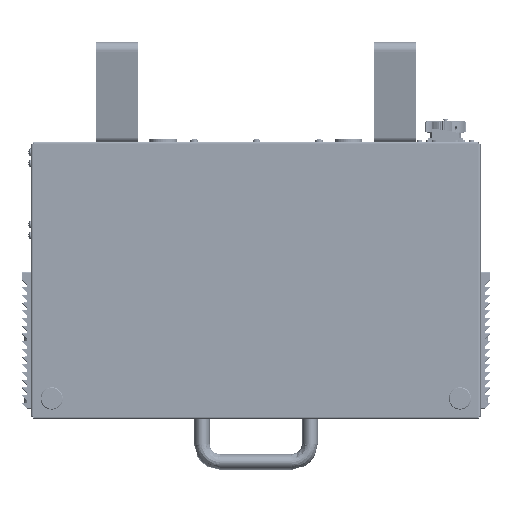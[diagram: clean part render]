
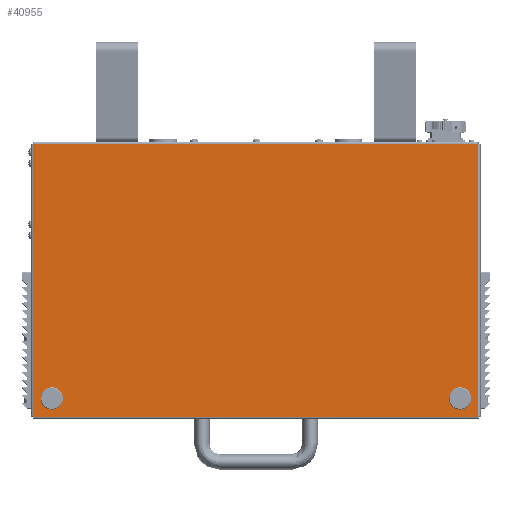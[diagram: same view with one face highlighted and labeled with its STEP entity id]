
A CAD part, front view. The second image highlights one B-rep face of the part: STEP entity #40955.
In plain terms, the highlighted planar face has unit normal (0, -1, 0).
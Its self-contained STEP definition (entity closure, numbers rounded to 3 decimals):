
#1609 = DIRECTION ( 'NONE',  ( 0., -1., 0. ) ) ;
#1695 = DIRECTION ( 'NONE',  ( -1., 0., 0. ) ) ;
#3004 = VERTEX_POINT ( 'NONE', #23946 ) ;
#3053 = DIRECTION ( 'NONE',  ( 0., -1., 0. ) ) ;
#3818 = FACE_BOUND ( 'NONE', #80604, .T. ) ;
#4043 = CARTESIAN_POINT ( 'NONE',  ( -220.5, -1.2, -127.5 ) ) ;
#5263 = AXIS2_PLACEMENT_3D ( 'NONE', #149540, #29645, #42977 ) ;
#11577 = CARTESIAN_POINT ( 'NONE',  ( 0., -1.2, -147.5 ) ) ;
#14991 = DIRECTION ( 'NONE',  ( 0., 0., -1. ) ) ;
#15294 = ORIENTED_EDGE ( 'NONE', *, *, #127512, .F. ) ;
#16985 = VECTOR ( 'NONE', #19115, 1000. ) ;
#17090 = CARTESIAN_POINT ( 'NONE',  ( -240.5, -1.2, -146.837 ) ) ;
#17490 = DIRECTION ( 'NONE',  ( 0., 0., -1. ) ) ;
#19115 = DIRECTION ( 'NONE',  ( 1., 0., 0. ) ) ;
#22512 = ORIENTED_EDGE ( 'NONE', *, *, #49264, .F. ) ;
#23118 = EDGE_LOOP ( 'NONE', ( #15294, #59607 ) ) ;
#23946 = CARTESIAN_POINT ( 'NONE',  ( -239.837, -1.2, 147.5 ) ) ;
#24355 = EDGE_CURVE ( 'NONE', #86313, #108006, #63225, .T. ) ;
#27046 = LINE ( 'NONE', #143511, #43563 ) ;
#29473 = ORIENTED_EDGE ( 'NONE', *, *, #24355, .F. ) ;
#29645 = DIRECTION ( 'NONE',  ( 0., -1., 0. ) ) ;
#30348 = CARTESIAN_POINT ( 'NONE',  ( -220.5, -1.2, -123.5 ) ) ;
#30459 = CARTESIAN_POINT ( 'NONE',  ( 220.5, -1.2, -127.5 ) ) ;
#31733 = CARTESIAN_POINT ( 'NONE',  ( 240.5, -1.2, 146.837 ) ) ;
#32503 = CARTESIAN_POINT ( 'NONE',  ( -220.5, -1.2, -127.5 ) ) ;
#33219 = DIRECTION ( 'NONE',  ( 0., -1., 0. ) ) ;
#34580 = CARTESIAN_POINT ( 'NONE',  ( -239.837, -1.2, -147.5 ) ) ;
#36681 = CARTESIAN_POINT ( 'NONE',  ( -240.5, -1.2, 0. ) ) ;
#39268 = CIRCLE ( 'NONE', #72884, 1. ) ;
#40955 = ADVANCED_FACE ( 'NONE', ( #46377, #3818, #100406 ), #99900, .F. ) ;
#41240 = DIRECTION ( 'NONE',  ( 0., -1., 0. ) ) ;
#41798 = DIRECTION ( 'NONE',  ( 0., -1., 0. ) ) ;
#42247 = CIRCLE ( 'NONE', #120290, 1. ) ;
#42977 = DIRECTION ( 'NONE',  ( 0., 0., -1. ) ) ;
#43563 = VECTOR ( 'NONE', #61856, 1000. ) ;
#43895 = CARTESIAN_POINT ( 'NONE',  ( 240.5, -1.2, -146.837 ) ) ;
#45578 = DIRECTION ( 'NONE',  ( 0., 0., -1. ) ) ;
#46377 = FACE_BOUND ( 'NONE', #23118, .T. ) ;
#46957 = AXIS2_PLACEMENT_3D ( 'NONE', #30459, #41240, #124428 ) ;
#49264 = EDGE_CURVE ( 'NONE', #76219, #86313, #42247, .T. ) ;
#50852 = EDGE_CURVE ( 'NONE', #140849, #76219, #27046, .T. ) ;
#53979 = VECTOR ( 'NONE', #1695, 1000. ) ;
#54192 = EDGE_CURVE ( 'NONE', #73463, #3004, #39268, .T. ) ;
#56558 = VECTOR ( 'NONE', #120366, 1000. ) ;
#56716 = EDGE_CURVE ( 'NONE', #108006, #74617, #128341, .T. ) ;
#57561 = CARTESIAN_POINT ( 'NONE',  ( -220.5, -1.2, -131.5 ) ) ;
#59231 = ORIENTED_EDGE ( 'NONE', *, *, #56716, .F. ) ;
#59543 = LINE ( 'NONE', #91200, #16985 ) ;
#59607 = ORIENTED_EDGE ( 'NONE', *, *, #149360, .F. ) ;
#61618 = ORIENTED_EDGE ( 'NONE', *, *, #54192, .F. ) ;
#61856 = DIRECTION ( 'NONE',  ( 0., 0., -1. ) ) ;
#63225 = LINE ( 'NONE', #11577, #53979 ) ;
#63968 = DIRECTION ( 'NONE',  ( 0., 1., 0. ) ) ;
#64193 = AXIS2_PLACEMENT_3D ( 'NONE', #141653, #1609, #95978 ) ;
#65668 = DIRECTION ( 'NONE',  ( 0., 0., -1. ) ) ;
#67364 = CARTESIAN_POINT ( 'NONE',  ( -240.5, -1.2, 146.837 ) ) ;
#68679 = CIRCLE ( 'NONE', #145785, 1. ) ;
#69527 = VERTEX_POINT ( 'NONE', #30348 ) ;
#72884 = AXIS2_PLACEMENT_3D ( 'NONE', #92423, #33219, #45578 ) ;
#73463 = VERTEX_POINT ( 'NONE', #67364 ) ;
#73483 = CIRCLE ( 'NONE', #5263, 4. ) ;
#74617 = VERTEX_POINT ( 'NONE', #17090 ) ;
#75444 = CARTESIAN_POINT ( 'NONE',  ( 0., -1.2, 0. ) ) ;
#75483 = CIRCLE ( 'NONE', #151069, 4. ) ;
#76219 = VERTEX_POINT ( 'NONE', #43895 ) ;
#78953 = VERTEX_POINT ( 'NONE', #140827 ) ;
#80537 = DIRECTION ( 'NONE',  ( 0., -1., 0. ) ) ;
#80604 = EDGE_LOOP ( 'NONE', ( #149198, #85079 ) ) ;
#85079 = ORIENTED_EDGE ( 'NONE', *, *, #121547, .F. ) ;
#85913 = CARTESIAN_POINT ( 'NONE',  ( 220.5, -1.2, -123.5 ) ) ;
#86313 = VERTEX_POINT ( 'NONE', #103649 ) ;
#88522 = DIRECTION ( 'NONE',  ( 0., -1., 0. ) ) ;
#91200 = CARTESIAN_POINT ( 'NONE',  ( 0., -1.2, 147.5 ) ) ;
#92423 = CARTESIAN_POINT ( 'NONE',  ( -240.793, -1.2, 147.793 ) ) ;
#93685 = ORIENTED_EDGE ( 'NONE', *, *, #141649, .F. ) ;
#93774 = LINE ( 'NONE', #36681, #56558 ) ;
#94770 = AXIS2_PLACEMENT_3D ( 'NONE', #75444, #63968, #111810 ) ;
#95978 = DIRECTION ( 'NONE',  ( 0., 0., -1. ) ) ;
#98065 = AXIS2_PLACEMENT_3D ( 'NONE', #4043, #88522, #17490 ) ;
#98381 = CIRCLE ( 'NONE', #46957, 4. ) ;
#99900 = PLANE ( 'NONE',  #94770 ) ;
#100406 = FACE_OUTER_BOUND ( 'NONE', #106740, .T. ) ;
#103649 = CARTESIAN_POINT ( 'NONE',  ( 239.837, -1.2, -147.5 ) ) ;
#106740 = EDGE_LOOP ( 'NONE', ( #137676, #61618, #147882, #59231, #29473, #22512, #116482, #93685 ) ) ;
#108006 = VERTEX_POINT ( 'NONE', #34580 ) ;
#111810 = DIRECTION ( 'NONE',  ( 0., 0., 1. ) ) ;
#116482 = ORIENTED_EDGE ( 'NONE', *, *, #50852, .F. ) ;
#117127 = CARTESIAN_POINT ( 'NONE',  ( 220.5, -1.2, -131.5 ) ) ;
#120290 = AXIS2_PLACEMENT_3D ( 'NONE', #127809, #80537, #150692 ) ;
#120366 = DIRECTION ( 'NONE',  ( 0., 0., 1. ) ) ;
#121547 = EDGE_CURVE ( 'NONE', #69527, #134875, #75483, .T. ) ;
#124428 = DIRECTION ( 'NONE',  ( 0., 0., -1. ) ) ;
#127512 = EDGE_CURVE ( 'NONE', #148520, #129078, #98381, .T. ) ;
#127809 = CARTESIAN_POINT ( 'NONE',  ( 240.793, -1.2, -147.793 ) ) ;
#128341 = CIRCLE ( 'NONE', #64193, 1. ) ;
#129078 = VERTEX_POINT ( 'NONE', #85913 ) ;
#130292 = EDGE_CURVE ( 'NONE', #74617, #73463, #93774, .T. ) ;
#132986 = EDGE_CURVE ( 'NONE', #3004, #78953, #59543, .T. ) ;
#134875 = VERTEX_POINT ( 'NONE', #57561 ) ;
#137676 = ORIENTED_EDGE ( 'NONE', *, *, #132986, .F. ) ;
#140251 = EDGE_CURVE ( 'NONE', #134875, #69527, #143406, .T. ) ;
#140827 = CARTESIAN_POINT ( 'NONE',  ( 239.837, -1.2, 147.5 ) ) ;
#140849 = VERTEX_POINT ( 'NONE', #31733 ) ;
#141649 = EDGE_CURVE ( 'NONE', #78953, #140849, #68679, .T. ) ;
#141653 = CARTESIAN_POINT ( 'NONE',  ( -240.793, -1.2, -147.793 ) ) ;
#143406 = CIRCLE ( 'NONE', #98065, 4. ) ;
#143511 = CARTESIAN_POINT ( 'NONE',  ( 240.5, -1.2, 0. ) ) ;
#145785 = AXIS2_PLACEMENT_3D ( 'NONE', #146747, #3053, #14991 ) ;
#146747 = CARTESIAN_POINT ( 'NONE',  ( 240.793, -1.2, 147.793 ) ) ;
#147882 = ORIENTED_EDGE ( 'NONE', *, *, #130292, .F. ) ;
#148520 = VERTEX_POINT ( 'NONE', #117127 ) ;
#149198 = ORIENTED_EDGE ( 'NONE', *, *, #140251, .F. ) ;
#149360 = EDGE_CURVE ( 'NONE', #129078, #148520, #73483, .T. ) ;
#149540 = CARTESIAN_POINT ( 'NONE',  ( 220.5, -1.2, -127.5 ) ) ;
#150692 = DIRECTION ( 'NONE',  ( 0., 0., -1. ) ) ;
#151069 = AXIS2_PLACEMENT_3D ( 'NONE', #32503, #41798, #65668 ) ;
